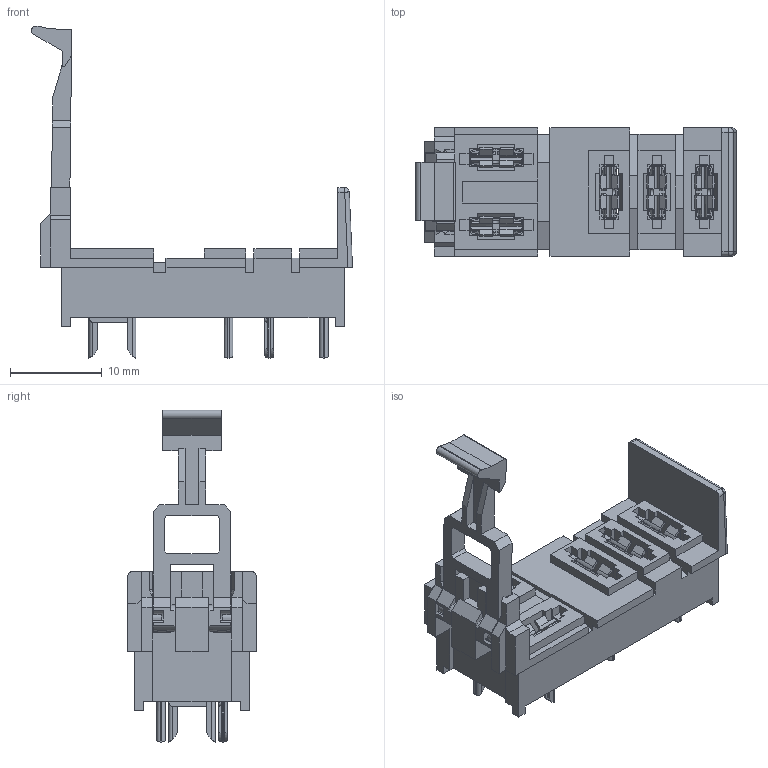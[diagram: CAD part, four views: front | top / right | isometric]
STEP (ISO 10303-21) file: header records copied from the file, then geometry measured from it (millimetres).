
FILE_DESCRIPTION (( 'STEP AP203' ), '1' );
FILE_NAME ('SRT05-P 俋倛.STEP', '2023-05-09T09:19:51', ( '' ), ( '' ), 'SwSTEP 2.0', 'SolidWorks 2018', '' );
FILE_SCHEMA (( 'CONFIG_CONTROL_DESIGN' ));
Length unit declared in the file: millimetre
Products named in the file (1): SRT05-P 俋倛
Bounding box: 35.03 x 14 x 36.23 mm (x, y, z)
Volume: 2299.5 mm3; surface area: 4729.1 mm2
Topology: 2 solids, 2 shells, 1282 faces, 3771 edges, 2500 vertices
Faces by surface type: plane 864, cylinder 396, sphere 22
Entity records: 42808 total; most frequent: CARTESIAN_POINT 8358, ORIENTED_EDGE 7538, DIRECTION 6883, EDGE_CURVE 3769, LINE 2777, VECTOR 2777, VERTEX_POINT 2500, AXIS2_PLACEMENT_3D 2053
